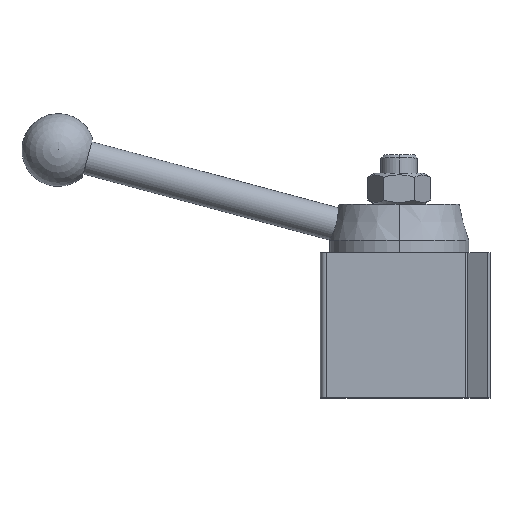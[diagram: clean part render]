
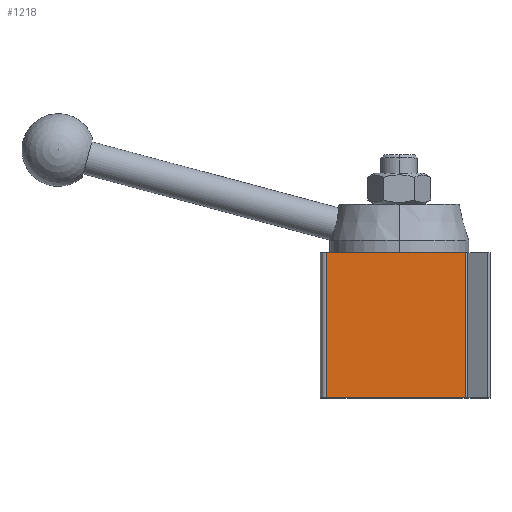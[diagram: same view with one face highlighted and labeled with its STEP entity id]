
A CAD part, top view. The second image highlights one B-rep face of the part: STEP entity #1218.
In plain terms, the highlighted planar face has unit normal (0, 0, 1).
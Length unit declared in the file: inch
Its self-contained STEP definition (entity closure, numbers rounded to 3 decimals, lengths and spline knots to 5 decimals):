
#32 = VERTEX_POINT ( 'NONE', #3682 ) ;
#86 = ORIENTED_EDGE ( 'NONE', *, *, #1952, .T. ) ;
#130 = ORIENTED_EDGE ( 'NONE', *, *, #1919, .T. ) ;
#133 = ORIENTED_EDGE ( 'NONE', *, *, #1942, .F. ) ;
#142 = ORIENTED_EDGE ( 'NONE', *, *, #1905, .T. ) ;
#169 = FACE_OUTER_BOUND ( 'NONE', #2507, .T. ) ;
#678 = CARTESIAN_POINT ( 'NONE',  ( -1.5, 3., 1.625 ) ) ;
#1141 = VERTEX_POINT ( 'NONE', #3589 ) ;
#1142 = VERTEX_POINT ( 'NONE', #3581 ) ;
#1218 = ADVANCED_FACE ( 'NONE', ( #169 ), #3424, .F. ) ;
#1296 = VERTEX_POINT ( 'NONE', #678 ) ;
#1666 = LINE ( 'NONE', #3807, #1669 ) ;
#1669 = VECTOR ( 'NONE', #3809, 39.37008 ) ;
#1690 = LINE ( 'NONE', #3841, #1693 ) ;
#1693 = VECTOR ( 'NONE', #3842, 39.37008 ) ;
#1730 = LINE ( 'NONE', #3886, #1732 ) ;
#1732 = VECTOR ( 'NONE', #3887, 39.37008 ) ;
#1747 = LINE ( 'NONE', #3909, #1749 ) ;
#1749 = VECTOR ( 'NONE', #3910, 39.37008 ) ;
#1905 = EDGE_CURVE ( 'NONE', #1142, #32, #1666, .T. ) ;
#1919 = EDGE_CURVE ( 'NONE', #1141, #1142, #1690, .T. ) ;
#1942 = EDGE_CURVE ( 'NONE', #1296, #32, #1730, .T. ) ;
#1952 = EDGE_CURVE ( 'NONE', #1296, #1141, #1747, .T. ) ;
#2507 = EDGE_LOOP ( 'NONE', ( #133, #86, #130, #142 ) ) ;
#2838 = AXIS2_PLACEMENT_3D ( 'NONE', #3428, #3418, #3416 ) ;
#3416 = DIRECTION ( 'NONE',  ( -1., 0., 0. ) ) ;
#3418 = DIRECTION ( 'NONE',  ( 0., 0., -1. ) ) ;
#3424 = PLANE ( 'NONE',  #2838 ) ;
#3428 = CARTESIAN_POINT ( 'NONE',  ( -1.625, 3., 1.625 ) ) ;
#3581 = CARTESIAN_POINT ( 'NONE',  ( 1.375, 0., 1.625 ) ) ;
#3589 = CARTESIAN_POINT ( 'NONE',  ( -1.5, 0., 1.625 ) ) ;
#3682 = CARTESIAN_POINT ( 'NONE',  ( 1.375, 3., 1.625 ) ) ;
#3807 = CARTESIAN_POINT ( 'NONE',  ( 1.375, 0., 1.625 ) ) ;
#3809 = DIRECTION ( 'NONE',  ( 0., 1., 0. ) ) ;
#3841 = CARTESIAN_POINT ( 'NONE',  ( -1.625, 0., 1.625 ) ) ;
#3842 = DIRECTION ( 'NONE',  ( 1., 0., 0. ) ) ;
#3886 = CARTESIAN_POINT ( 'NONE',  ( -1.625, 3., 1.625 ) ) ;
#3887 = DIRECTION ( 'NONE',  ( 1., 0., 0. ) ) ;
#3909 = CARTESIAN_POINT ( 'NONE',  ( -1.5, 3., 1.625 ) ) ;
#3910 = DIRECTION ( 'NONE',  ( 0., -1., 0. ) ) ;
